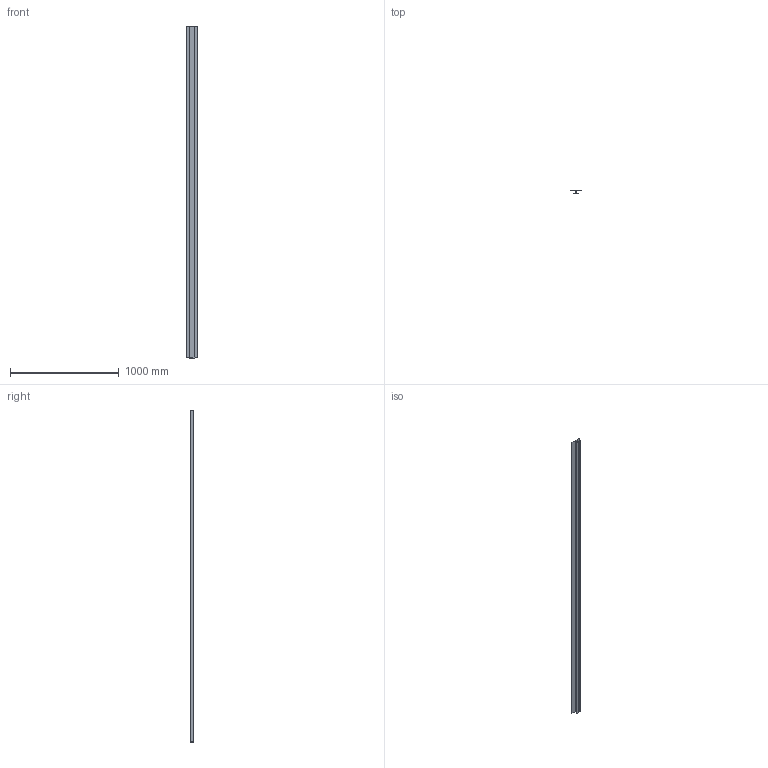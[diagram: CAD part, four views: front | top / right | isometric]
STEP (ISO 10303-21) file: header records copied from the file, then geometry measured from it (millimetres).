
FILE_DESCRIPTION (( 'STEP AP203' ), '1' );
FILE_NAME ('M11G.STEP', '2018-06-15T14:10:45', ( 'Michael Moliner' ), ( '' ), 'SwSTEP 2.0', 'SolidWorks 2018', '' );
FILE_SCHEMA (( 'CONFIG_CONTROL_DESIGN' ));
Length unit declared in the file: inch
Products named in the file (2): M11G
Bounding box: 101.6 x 30.04 x 3048 mm (x, y, z)
Volume: 462278.8 mm3; surface area: 1829588.9 mm2
Topology: 3 solids, 3 shells, 40 faces, 102 edges, 68 vertices
Faces by surface type: plane 30, cylinder 10
Entity records: 1359 total; most frequent: CARTESIAN_POINT 212, DIRECTION 206, ORIENTED_EDGE 204, EDGE_CURVE 102, LINE 82, VECTOR 82, VERTEX_POINT 68, AXIS2_PLACEMENT_3D 62
